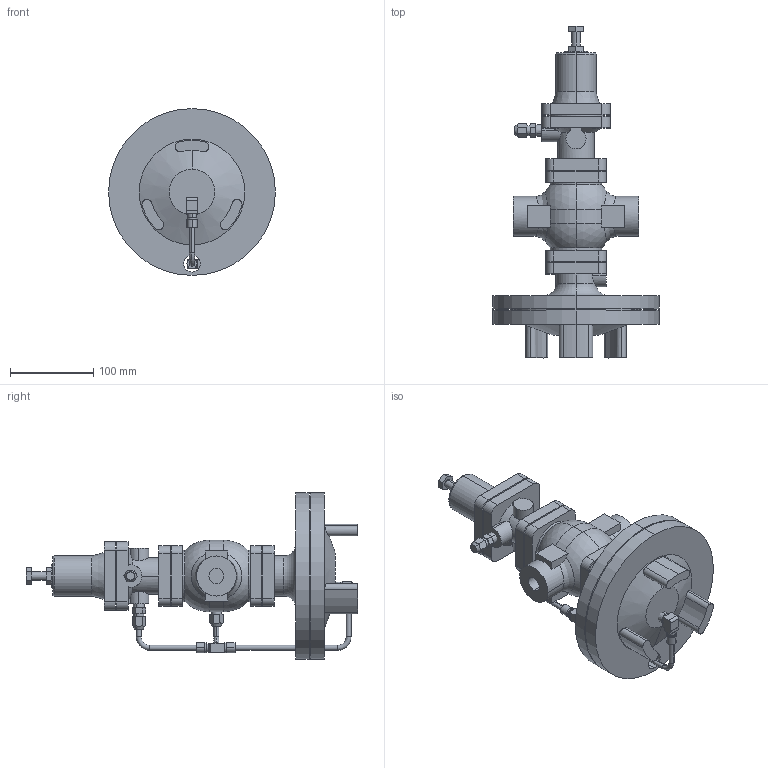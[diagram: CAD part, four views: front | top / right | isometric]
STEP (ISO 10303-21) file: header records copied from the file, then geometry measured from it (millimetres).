
FILE_DESCRIPTION (( 'STEP AP203' ), '1' );
FILE_NAME ('GPR-2000 JIS Rc 15A.STEP', '2025-12-05T01:49:48', ( '' ), ( '' ), 'SwSTEP 2.0', 'SolidWorks 2024', '' );
FILE_SCHEMA (( 'CONFIG_CONTROL_DESIGN' ));
Length unit declared in the file: millimetre
Products named in the file (8): GPR-2000 Body Assy EN 15A; Pipe A 15-25A; GPR-2000 JIS Rc 15A; Joint; Elbow; Pipe B 15-20A; Pipe C 15-20A; Tee
Assembly tree (9 placements, depth 2):
  GPR-2000 JIS Rc 15A
    GPR-2000 Body Assy EN 15A
    Tee
    Joint  x3
    Pipe B 15-20A
    Pipe A 15-25A
    Elbow
    Pipe C 15-20A
Bounding box: 200 x 397.9 x 200 mm (x, y, z)
Volume: 2505480.9 mm3; surface area: 261079.2 mm2
Topology: 9 solids, 9 shells, 375 faces, 939 edges, 625 vertices
Faces by surface type: plane 186, cylinder 144, cone 27, torus 10, sphere 4, bspline 4
Entity records: 12523 total; most frequent: CARTESIAN_POINT 3670, DIRECTION 1733, ORIENTED_EDGE 1610, EDGE_CURVE 805, AXIS2_PLACEMENT_3D 658, VERTEX_POINT 529, VECTOR 417, LINE 417
